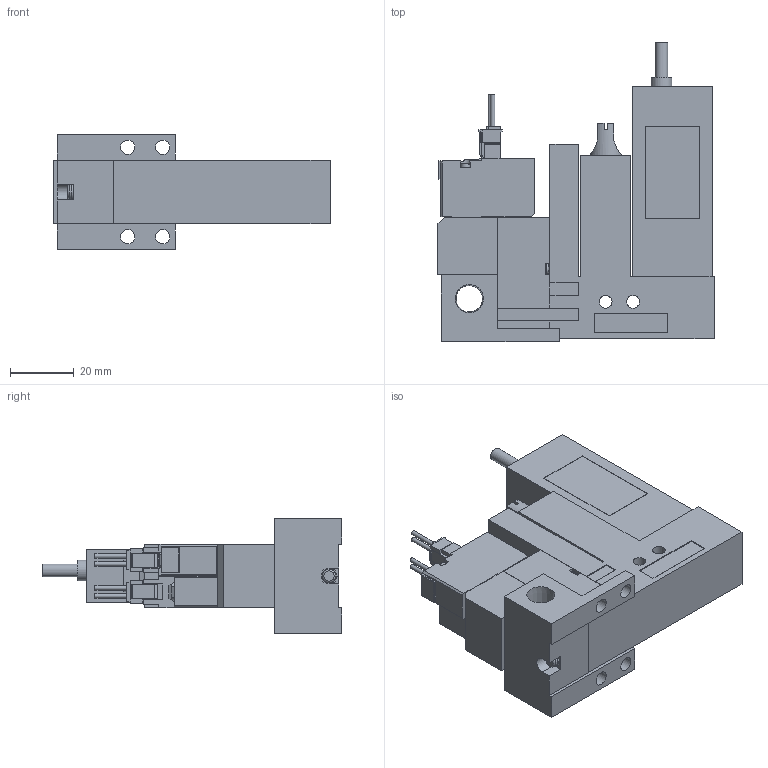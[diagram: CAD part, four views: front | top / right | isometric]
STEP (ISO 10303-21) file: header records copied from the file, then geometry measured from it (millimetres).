
FILE_DESCRIPTION(('STEP AP203'),'1');
FILE_NAME('VG_VGPL5ALR101.stp','2025-02-18T05:30:46',(' '),(' '),'Spatial InterOp 3D',' ',' ');
FILE_SCHEMA(('CONFIG_CONTROL_DESIGN'));
Length unit declared in the file: millimetre
Products named in the file (5): BMC22M※※※※VG_VGPL5ALR101; Solenoid valve A; Pressure sensor VGL; Unit L; Base MR10R
Assembly tree (4 placements, depth 2):
  BMC22M※※※※VG_VGPL5ALR101
    Solenoid valve A
    Pressure sensor VGL
    Unit L
    Base MR10R
Bounding box: 86.6 x 94 x 36 mm (x, y, z)
Volume: 105072.4 mm3; surface area: 29700 mm2
Topology: 4 solids, 4 shells, 400 faces, 1072 edges, 709 vertices
Faces by surface type: plane 334, cylinder 54, cone 9, torus 3
Full cylindrical faces by diameter (mm): 1.4 x4, 2.5 x3, 3 x4, 3.5 x4, 3.6 x1, 4 x6, 4.134 x1, 4.5 x4, 5.2 x1, 6 x1, 6.5 x1, 6.6 x1, 8.279 x1
Entity records: 12346 total; most frequent: CARTESIAN_POINT 2240, ORIENTED_EDGE 2010, DIRECTION 1955, EDGE_CURVE 1005, LINE 855, VECTOR 855, VERTEX_POINT 690, AXIS2_PLACEMENT_3D 550
